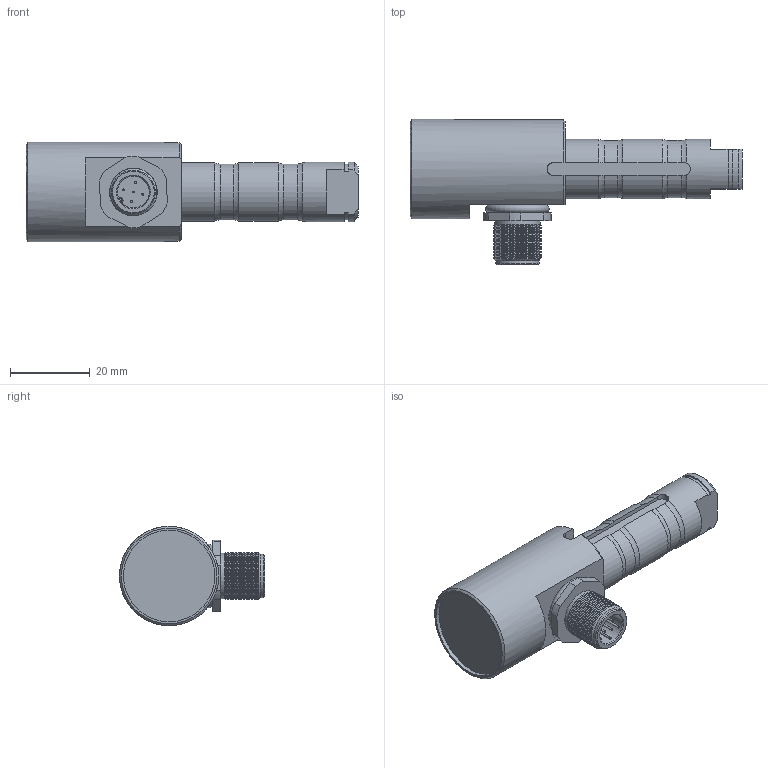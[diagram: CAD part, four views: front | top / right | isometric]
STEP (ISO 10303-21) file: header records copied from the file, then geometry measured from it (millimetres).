
FILE_DESCRIPTION(/* description */ ('Alibre Inc.'),/* implementation_level */ '2;1');
FILE_NAME(/* name */ 'export-B66F8002-9D73-4A69-8708-97344267E12E',/* time_stamp */ '2022-01-12T13:26:44+01:00',/* author */ (''),/* organization */ (''),/* preprocessor_version */ 'ST-DEVELOPER v17',/* originating_system */ 'Alibre',/* authorisation */ '');
FILE_SCHEMA (('CONFIG_CONTROL_DESIGN'));
Length unit declared in the file: millimetre
Bounding box: 83.5 x 36.5 x 25 mm (x, y, z)
Surface area: 160221.2 mm2
Topology: 7 solids, 8 shells, 223 faces, 507 edges, 306 vertices
Faces by surface type: cylinder 75, cone 75, plane 63, torus 10
Full cylindrical faces by diameter (mm): 0.5 x10, 8 x2, 10 x1, 11 x1, 11.5 x1, 12 x21, 13 x2, 14.5 x1, 15 x1, 23 x1, 25 x1
Entity records: 5483 total; most frequent: CARTESIAN_POINT 1203, ORIENTED_EDGE 812, DIRECTION 697, EDGE_CURVE 400, EDGE_LOOP 334, FACE_BOUND 334, AXIS2_PLACEMENT_3D 319, VERTEX_POINT 292
